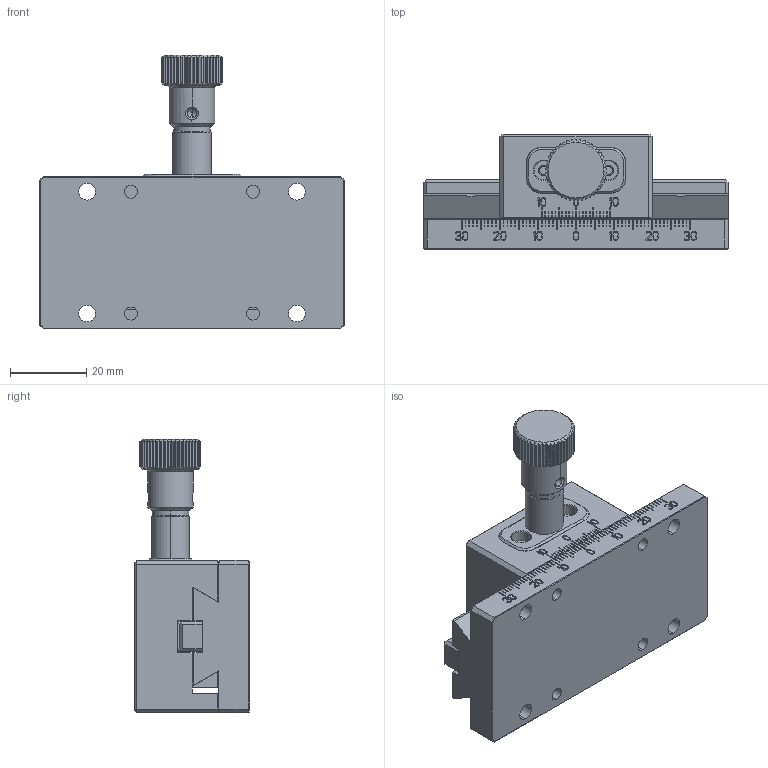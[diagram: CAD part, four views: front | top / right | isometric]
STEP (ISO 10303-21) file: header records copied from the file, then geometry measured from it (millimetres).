
FILE_DESCRIPTION((''),'2;1');
FILE_NAME('ASSY-40-ST60_ASM','2021-12-22T16:19:08',('windows10'),(''),'CREO PARAMETRIC BY PTC INC, 2018260','CREO PARAMETRIC BY PTC INC, 2018260','');
FILE_SCHEMA(('CONFIG_CONTROL_DESIGN'));
Length unit declared in the file: millimetre
Products named in the file (11): BOTTOM-40-80-M; RACK-8-6-80; ASSY-BOTTOM-40-80-M_ASM; TOP-40-40-F-NEW; HOLDER-PINION-16D3; PINION-4-41; WHASHER-9D6-4D1-1D2; HANDLE-16-19; ASSY-HANDLE-16-51D8_ASM; ASSY-TOP-40-40-F_ASM; ASSY-40-ST60_ASM
Assembly tree (10 placements, depth 4):
  ASSY-40-ST60_ASM
    ASSY-BOTTOM-40-80-M_ASM
      BOTTOM-40-80-M
      RACK-8-6-80
    ASSY-TOP-40-40-F_ASM
      TOP-40-40-F-NEW
      ASSY-HANDLE-16-51D8_ASM
        HOLDER-PINION-16D3
        PINION-4-41
        WHASHER-9D6-4D1-1D2
        HANDLE-16-19
Bounding box: 80 x 30 x 71.8 mm (x, y, z)
Volume: 67368.9 mm3; surface area: 27506.4 mm2
Topology: 7 solids, 7 shells, 1636 faces, 4312 edges, 2820 vertices
Faces by surface type: plane 1337, cylinder 189, cone 100, torus 6, bspline 4
Entity records: 50901 total; most frequent: CARTESIAN_POINT 10090, ORIENTED_EDGE 8612, DIRECTION 7898, EDGE_CURVE 4306, VECTOR 3612, LINE 3612, VERTEX_POINT 2820, AXIS2_PLACEMENT_3D 2143
